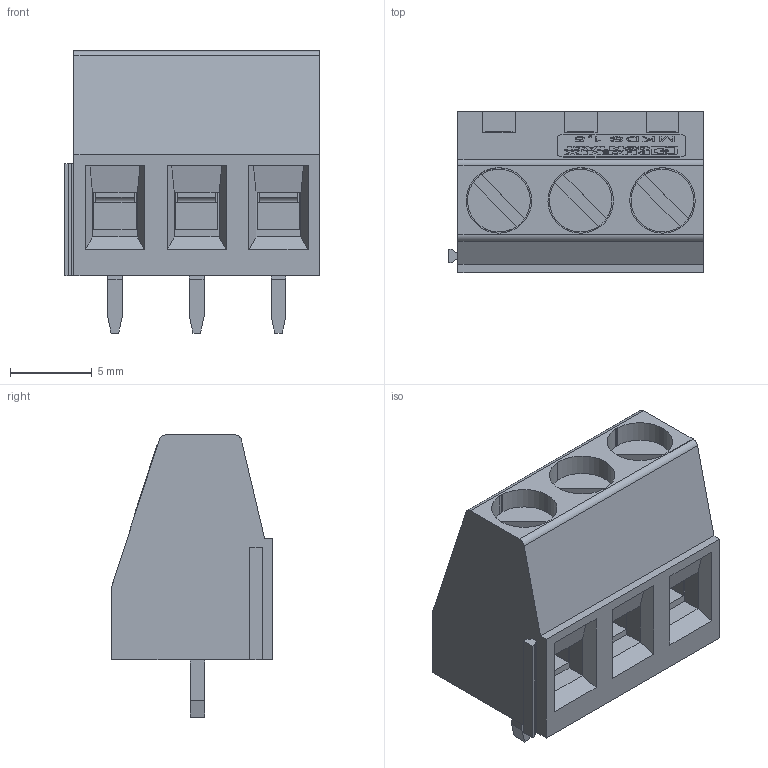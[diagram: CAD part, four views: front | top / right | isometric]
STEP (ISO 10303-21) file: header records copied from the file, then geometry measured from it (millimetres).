
FILE_DESCRIPTION(('STEP AP214'),'1');
FILE_NAME('cctmp_33E56995-498B-47E1-B88E-B492ACD9015D_2025_06_13_06_54_24_0015_8580..stp','2025-06-13T06:54:24',('PHOENIX CONTACT Deutschland GmbH'),('CADClick - www.CADClick.com'),'Spatial InterOp 3D',' ','unknown authorization');
FILE_SCHEMA(('AUTOMOTIVE_DESIGN'));
Length unit declared in the file: millimetre
Products named in the file (11): 2025_06_13_06_54_23_0524; 2025_06_13_06_54_24_0015; 2025_06_13_06_54_23_0999; 2025_06_13_06_54_23_0984; 2025_06_13_06_54_23_0968; 2025_06_13_06_54_23_0952; 2025_06_13_06_54_23_0937; 2025_06_13_06_54_23_0921; 2025_06_13_06_54_23_0906; 2025_06_13_06_54_23_0890; 2025_06_13_06_54_23_0859
Assembly tree (10 placements, depth 2):
  2025_06_13_06_54_23_0524
    2025_06_13_06_54_24_0015
    2025_06_13_06_54_23_0999
    2025_06_13_06_54_23_0984
    2025_06_13_06_54_23_0968
    2025_06_13_06_54_23_0952
    2025_06_13_06_54_23_0937
    2025_06_13_06_54_23_0921
    2025_06_13_06_54_23_0906
    2025_06_13_06_54_23_0890
    2025_06_13_06_54_23_0859
Bounding box: 15.57 x 9.88 x 17.25 mm (x, y, z)
Volume: 1251.2 mm3; surface area: 2821.4 mm2
Topology: 10 solids, 10 shells, 757 faces, 2065 edges, 1358 vertices
Faces by surface type: plane 643, cylinder 96, bspline 18
Entity records: 43615 total; most frequent: CARTESIAN_POINT 5401, ORIENTED_EDGE 4130, DIRECTION 3761, STYLED_ITEM 3275, PRESENTATION_STYLE_ASSIGNMENT 3275, COLOUR_RGB 3275, EDGE_CURVE 2065, LINE 1797
